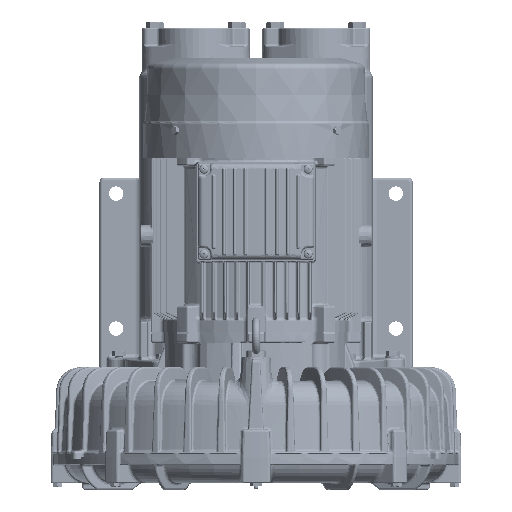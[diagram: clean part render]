
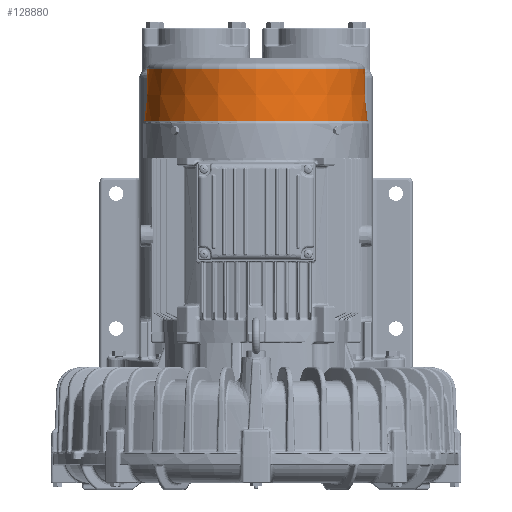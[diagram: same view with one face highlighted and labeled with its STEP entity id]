
A CAD part, top view. The second image highlights one B-rep face of the part: STEP entity #128880.
In plain terms, the highlighted conical face has half-angle 3 degrees and reference radius 114.247 mm.
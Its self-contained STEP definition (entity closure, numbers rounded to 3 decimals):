
#11362=CONICAL_SURFACE('',#138480,114.247,3.);
#29425=FACE_BOUND('',#39891,.T.);
#31379=FACE_OUTER_BOUND('',#39890,.T.);
#39890=EDGE_LOOP('',(#95236));
#39891=EDGE_LOOP('',(#95237));
#47912=CIRCLE('',#138479,112.953);
#47913=CIRCLE('',#138481,115.75);
#57305=VERTEX_POINT('',#210449);
#57306=VERTEX_POINT('',#210452);
#70713=EDGE_CURVE('',#57305,#57305,#47912,.T.);
#70714=EDGE_CURVE('',#57306,#57306,#47913,.T.);
#95236=ORIENTED_EDGE('',*,*,#70714,.F.);
#95237=ORIENTED_EDGE('',*,*,#70713,.F.);
#128880=ADVANCED_FACE('',(#31379,#29425),#11362,.T.);
#138479=AXIS2_PLACEMENT_3D('',#210450,#156556,#156557);
#138480=AXIS2_PLACEMENT_3D('',#210451,#156558,#156559);
#138481=AXIS2_PLACEMENT_3D('',#210453,#156560,#156561);
#156556=DIRECTION('center_axis',(0.,1.,0.));
#156557=DIRECTION('ref_axis',(0.,0.,
-1.));
#156558=DIRECTION('center_axis',(0.,-1.,0.));
#156559=DIRECTION('ref_axis',(0.,0.,
1.));
#156560=DIRECTION('center_axis',(0.,-1.,0.));
#156561=DIRECTION('ref_axis',(0.,0.,
-1.));
#210449=CARTESIAN_POINT('',(0.,402.015,112.953));
#210450=CARTESIAN_POINT('Origin',(0.,402.015,
0.));
#210451=CARTESIAN_POINT('Origin',(0.,377.325,
0.));
#210452=CARTESIAN_POINT('',(0.,348.65,115.75));
#210453=CARTESIAN_POINT('Origin',(0.,348.65,
0.));
